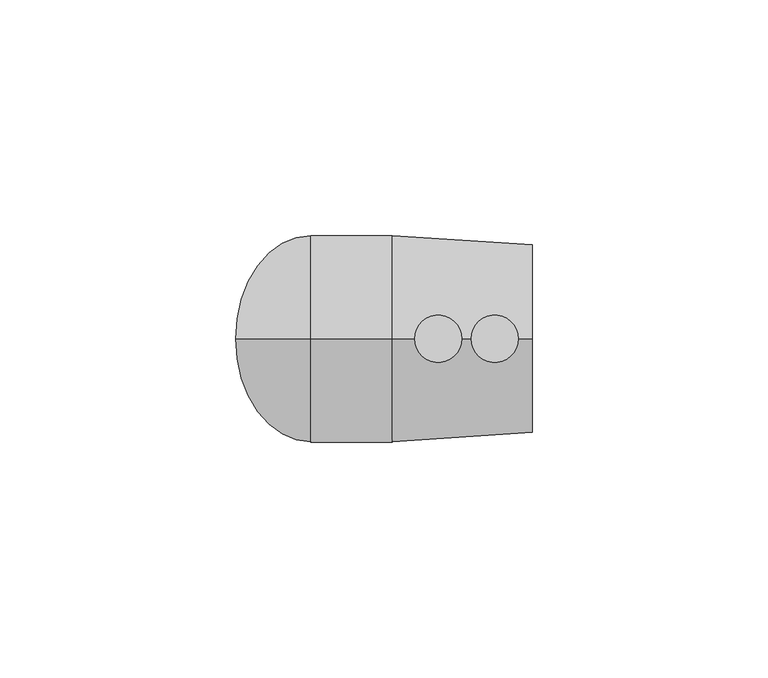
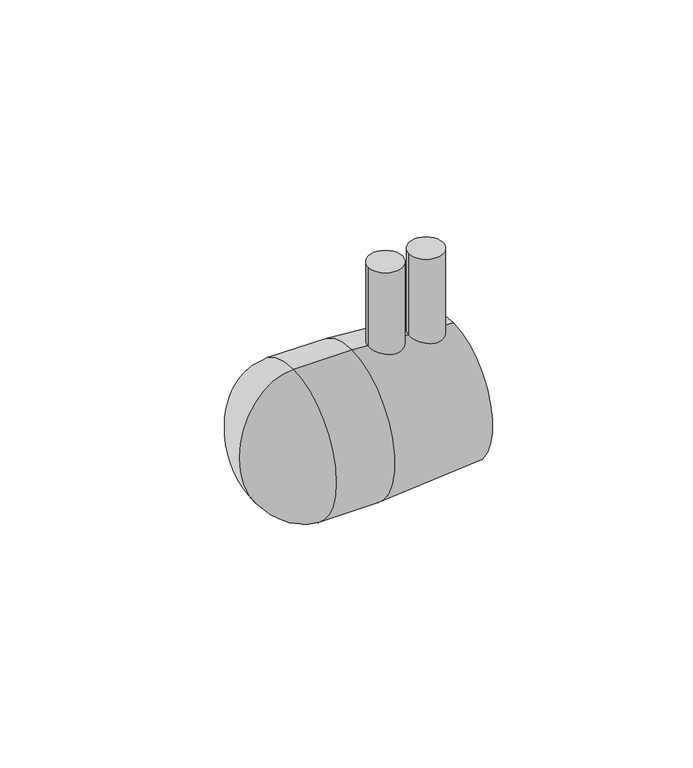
"""IFC4 building model written with IfcOpenShell, lengths in millimetres: pipe fitting geometry, Plumbing_Pipe-Fittings_Plasson_Monolithic-End-Cap_494204 : Plumbing_Pipe-Fittings_Plasson_Monolithic-End-Cap_494204."""

from ifc_helpers import new_model, si_unit, point, frame, frame_2d, origin, place, context, project, spatial, polyline, circle_curve, ellipse_curve, trimmed, segment, composite_curve, outline, extrude, source, transform, mapped, element, save
from ifc_brep_helpers import plane_surface, cylinder_surface, revolved_surface, advanced_brep


def pipe_fitting_ad679aff(model_context):
    return source(origin(), model_context, "Body", "SolidModel", [
        extrude(outline(composite_curve([segment(trimmed(circle_curve(frame_2d((25.5, 0.0)), 5.0), [point((20.5, 0.0))], [point((30.5, 0.0))], False, "CARTESIAN"), True, "CONTINUOUS"), segment(trimmed(circle_curve(frame_2d((25.5, 0.0)), 5.0), [point((30.5, 0.0))], [point((20.5, 0.0))], False, "CARTESIAN"), True, "CONTINUOUS")], self_intersect=False)), frame((0.0, 0.0, 19.0), z_axis=(0.0, 0.0, 1.0), x_axis=(1.0, 0.0, 0.0)), (0.0, 0.0, 1.0), 27.0),
        extrude(outline(composite_curve([segment(trimmed(circle_curve(frame_2d((37.5, 0.0)), 5.0), [point((32.5, 0.0))], [point((42.5, 0.0))], False, "CARTESIAN"), True, "CONTINUOUS"), segment(trimmed(circle_curve(frame_2d((37.5, 0.0)), 5.0), [point((42.5, 0.0))], [point((32.5, 0.0))], False, "CARTESIAN"), True, "CONTINUOUS")], self_intersect=False)), frame((0.0, 0.0, 19.0), z_axis=(0.0, 0.0, 1.0), x_axis=(1.0, 0.0, 0.0)), (0.0, 0.0, 1.0), 27.0),
        advanced_brep(
        [(45.5, 0.0, -20.0), (45.5, 0.0, 20.0), (45.5, 0.0, 16.0), (45.5, 0.0, -16.0), (15.75, 0.0, -22.0), (15.75, 0.0, 22.0), (-1.5, 0.0, -13.0), (-1.5, 0.0, 13.0), (-1.5, 0.0, 16.0), (-1.5, 0.0, -16.0), (1.5, 0.0, -13.0), (1.5, 0.0, 13.0), (1.5, 0.0, -16.0), (1.5, 0.0, 16.0), (-1.5, 0.0, -22.0), (-1.5, 0.0, 22.0), (-17.5, 0.0, 0.0), (-11.5, 0.0, 0.0)],
        [
            (0, 1, circle_curve(frame((45.5, 0.0, 0.0), z_axis=(1.0, 0.0, 0.0), x_axis=(0.0, 0.0, 1.0)), 20.0)),
            (1, 2),
            (2, 3, circle_curve(frame((45.5, 0.0, 0.0), z_axis=(-1.0, 0.0, 0.0), x_axis=(0.0, 0.0, 1.0)), 16.0)),
            (3, 0),
            (1, 0, circle_curve(frame((45.5, 0.0, 0.0), z_axis=(1.0, 0.0, 0.0), x_axis=(0.0, 0.0, 1.0)), 20.0)),
            (3, 2, circle_curve(frame((45.5, 0.0, 0.0), z_axis=(-1.0, 0.0, 0.0), x_axis=(0.0, 0.0, 1.0)), 16.0)),
            (4, 5, circle_curve(frame((15.75, 0.0, 0.0), z_axis=(1.0, 0.0, 0.0), x_axis=(0.0, 0.0, 1.0)), 22.0)),
            (5, 1),
            (0, 4),
            (5, 4, circle_curve(frame((15.75, 0.0, 0.0), z_axis=(1.0, 0.0, 0.0), x_axis=(0.0, 0.0, 1.0)), 22.0)),
            (6, 7, circle_curve(frame((-1.5, 0.0, 0.0), z_axis=(1.0, 0.0, 0.0), x_axis=(0.0, 0.0, 1.0)), 13.0)),
            (7, 8),
            (8, 9, circle_curve(frame((-1.5, 0.0, 0.0), z_axis=(-1.0, 0.0, 0.0), x_axis=(0.0, 0.0, 1.0)), 16.0)),
            (9, 6),
            (7, 6, circle_curve(frame((-1.5, 0.0, 0.0), z_axis=(1.0, 0.0, 0.0), x_axis=(0.0, 0.0, 1.0)), 13.0)),
            (9, 8, circle_curve(frame((-1.5, 0.0, 0.0), z_axis=(-1.0, 0.0, 0.0), x_axis=(0.0, 0.0, 1.0)), 16.0)),
            (10, 11, circle_curve(frame((1.5, 0.0, 0.0), z_axis=(1.0, 0.0, 0.0), x_axis=(0.0, 0.0, 1.0)), 13.0)),
            (11, 7),
            (6, 10),
            (11, 10, circle_curve(frame((1.5, 0.0, 0.0), z_axis=(1.0, 0.0, 0.0), x_axis=(0.0, 0.0, 1.0)), 13.0)),
            (12, 13, circle_curve(frame((1.5, 0.0, 0.0), z_axis=(1.0, 0.0, 0.0), x_axis=(0.0, 0.0, 1.0)), 16.0)),
            (13, 11),
            (10, 12),
            (13, 12, circle_curve(frame((1.5, 0.0, 0.0), z_axis=(1.0, 0.0, 0.0), x_axis=(0.0, 0.0, 1.0)), 16.0)),
            (2, 13),
            (12, 3),
            (14, 15, circle_curve(frame((-1.5, 0.0, 0.0), z_axis=(1.0, 0.0, 0.0), x_axis=(0.0, 0.0, 1.0)), 22.0)),
            (15, 5),
            (4, 14),
            (15, 14, circle_curve(frame((-1.5, 0.0, 0.0), z_axis=(1.0, 0.0, 0.0), x_axis=(0.0, 0.0, 1.0)), 22.0)),
            (16, 15, ellipse_curve(frame((-1.5, 0.0, 0.0), z_axis=(0.0, 1.0, 0.0), x_axis=(0.0, 0.0, 1.0)), 22.0, 16.0)),
            (14, 16, ellipse_curve(frame((-1.5, 0.0, 0.0), z_axis=(0.0, 1.0, 0.0), x_axis=(0.0, 0.0, -1.0)), 22.0, 16.0)),
            (8, 17, ellipse_curve(frame((-1.5, 0.0, 0.0), z_axis=(0.0, -1.0, 0.0), x_axis=(0.0, 0.0, 1.0)), 16.0, 10.0)),
            (17, 9, ellipse_curve(frame((-1.5, 0.0, 0.0), z_axis=(0.0, -1.0, 0.0), x_axis=(0.0, 0.0, -1.0)), 16.0, 10.0)),
        ],
        [
            plane_surface(frame((45.5, 0.0, 0.0), z_axis=(1.0, 0.0, 0.0), x_axis=(0.0, 0.0, 1.0))),
            revolved_surface(polyline([(45.5, 0.0, 20.0), (15.75, 0.0, 22.0)]), (-17.5, 0.0, 0.0), (-1.0, 0.0, 0.0)),
            plane_surface(frame((-1.5, 0.0, 0.0), z_axis=(-1.0, 0.0, 0.0), x_axis=(0.0, 0.0, 1.0))),
            revolved_surface(polyline([(-1.5, 0.0, 13.0), (1.5, 0.0, 13.0)]), (-17.5, 0.0, 0.0), (-1.0, 0.0, 0.0)),
            plane_surface(frame((1.5, 0.0, 0.0), z_axis=(1.0, 0.0, 0.0), x_axis=(0.0, 0.0, 1.0))),
            revolved_surface(polyline([(1.5, 0.0, 16.0), (45.5, 0.0, 16.0)]), (-17.5, 0.0, 0.0), (-1.0, 0.0, 0.0)),
            cylinder_surface(frame((-17.5, 0.0, 0.0), z_axis=(-1.0, 0.0, 0.0), x_axis=(0.0, 0.0, 1.0)), 22.0),
            revolved_surface(trimmed(ellipse_curve(frame((-1.5, 0.0, 0.0), z_axis=(0.0, -1.0, 0.0), x_axis=(0.0, 0.0, 1.0)), 22.0, 16.0), [point((-1.5, 0.0, 22.0))], [point((-17.5, 0.0, 0.0))], True, "CARTESIAN"), (-17.5, 0.0, 0.0), (-1.0, 0.0, 0.0)),
            revolved_surface(trimmed(ellipse_curve(frame((-1.5, 0.0, 0.0), z_axis=(0.0, 1.0, 0.0), x_axis=(0.0, 0.0, 1.0)), 16.0, 10.0), [point((-11.5, 0.0, 0.0))], [point((-1.5, 0.0, 16.0))], True, "CARTESIAN"), (-17.5, 0.0, 0.0), (-1.0, 0.0, 0.0)),
        ],
        [
            (0, [[1, 2, 3, 4]]),
            (0, [[5, -4, 6, -2]]),
            (1, [[7, 8, -1, 9]]),
            (1, [[10, -9, -5, -8]]),
            (2, [[11, 12, 13, 14]]),
            (2, [[15, -14, 16, -12]]),
            (3, [[17, 18, -11, 19]]),
            (3, [[20, -19, -15, -18]]),
            (4, [[21, 22, -17, 23]]),
            (4, [[24, -23, -20, -22]]),
            (5, [[-3, 25, -21, 26]]),
            (5, [[-6, -26, -24, -25]]),
            (6, [[27, 28, -7, 29]]),
            (6, [[30, -29, -10, -28]]),
            (7, [[31, -27, 32]]),
            (7, [[-32, -30, -31]]),
            (8, [[-13, 33, 34]]),
            (8, [[-16, -34, -33]]),
        ],
    ),
    ])


if __name__ == "__main__":
    model = new_model("IFC4")
    model_context = context("Model", 3, world=origin())
    ifc_project = project(units=[si_unit("LENGTHUNIT", "METRE", prefix="MILLI")], contexts=[model_context])
    site = spatial("IfcSite", under=ifc_project)
    building = spatial("IfcBuilding", under=site)
    placement = place(None, origin())
    pipe_fitting_shape = pipe_fitting_ad679aff(model_context)
    element("IfcPipeFitting", 1, ObjectType="Plumbing_Pipe-Fittings_Plasson_Monolithic-End-Cap_494204 : Plumbing_Pipe-Fittings_Plasson_Monolithic-End-Cap_494204", at=placement, inside=building, context=model_context, shape_type="MappedRepresentation", body=[
        mapped(pipe_fitting_shape, transform((0.0, 0.0, 0.0), x_axis=(1.0, 0.0, 0.0), y_axis=(0.0, 1.0, 0.0), z_axis=(0.0, 0.0, 1.0))),
    ])
    save(model, "model.ifc")
